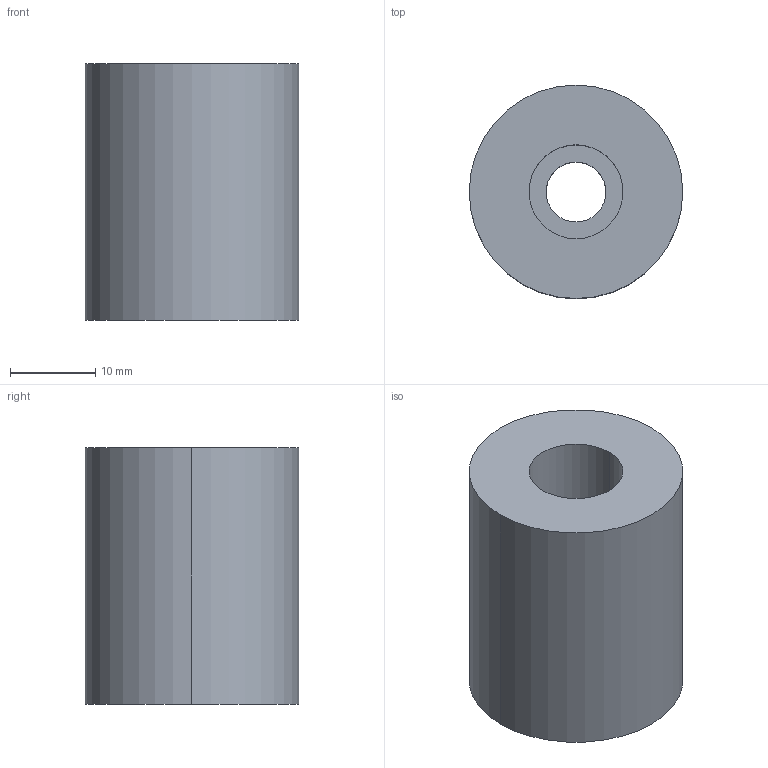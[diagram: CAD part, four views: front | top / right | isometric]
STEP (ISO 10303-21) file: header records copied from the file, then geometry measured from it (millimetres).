
FILE_DESCRIPTION(/* description */ (''),/* implementation_level */ '2;1');
FILE_NAME(/* name */ '3d_azn25-30_03259_r00.stp',/* time_stamp */ '2011-01-10T14:17:33+09:00',/* author */ ('MISUMI'),/* organization */ (''),/* preprocessor_version */ 'ST-DEVELOPER v11',/* originating_system */ 'UGS - NX 5.0',/* authorisation */ '');
FILE_SCHEMA (('CONFIG_CONTROL_DESIGN'));
Length unit declared in the file: millimetre
Products named in the file (1): 3d_azn25-30_03259_r00
Bounding box: 25 x 25 x 30 mm (x, y, z)
Volume: 12440.7 mm3; surface area: 4172 mm2
Topology: 1 solids, 1 shells, 9 faces, 18 edges, 12 vertices
Faces by surface type: cylinder 6, plane 3
Entity records: 334 total; most frequent: DIRECTION 50, CARTESIAN_POINT 40, ORIENTED_EDGE 36, AXIS2_PLACEMENT_3D 22, EDGE_CURVE 18, EDGE_LOOP 12, VERTEX_POINT 12, CIRCLE 12
